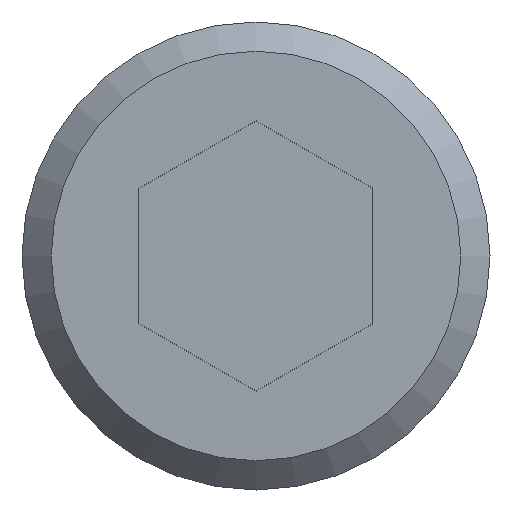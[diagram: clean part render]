
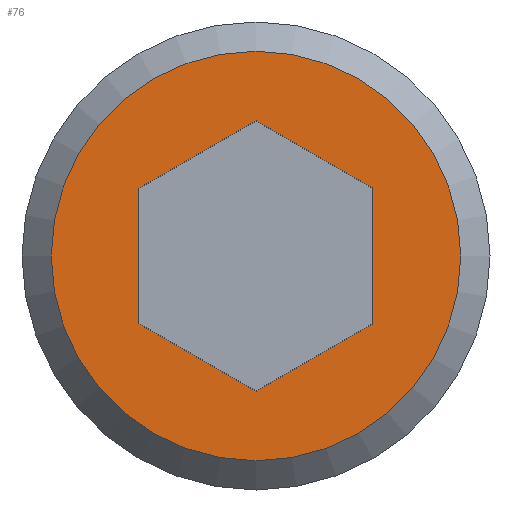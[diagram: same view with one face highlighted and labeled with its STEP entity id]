
A CAD part, front view. The second image highlights one B-rep face of the part: STEP entity #76.
In plain terms, the highlighted planar face has unit normal (0, -1, 0).
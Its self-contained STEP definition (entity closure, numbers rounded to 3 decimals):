
#76 = ADVANCED_FACE( '', ( #94, #95 ), #96, .F. );
#94 = FACE_OUTER_BOUND( '', #132, .T. );
#95 = FACE_BOUND( '', #133, .T. );
#96 = PLANE( '', #134 );
#132 = EDGE_LOOP( '', ( #172 ) );
#133 = EDGE_LOOP( '', ( #173, #174, #175, #176, #177, #178 ) );
#134 = AXIS2_PLACEMENT_3D( '', #179, #180, #181 );
#172 = ORIENTED_EDGE( '', *, *, #264, .F. );
#173 = ORIENTED_EDGE( '', *, *, #265, .T. );
#174 = ORIENTED_EDGE( '', *, *, #266, .T. );
#175 = ORIENTED_EDGE( '', *, *, #267, .T. );
#176 = ORIENTED_EDGE( '', *, *, #268, .T. );
#177 = ORIENTED_EDGE( '', *, *, #269, .T. );
#178 = ORIENTED_EDGE( '', *, *, #270, .T. );
#179 = CARTESIAN_POINT( '', ( 0., 0., 0. ) );
#180 = DIRECTION( '', ( 0., 1., 0. ) );
#181 = DIRECTION( '', ( 0., 0., 1. ) );
#264 = EDGE_CURVE( '', #291, #291, #292, .T. );
#265 = EDGE_CURVE( '', #293, #294, #295, .T. );
#266 = EDGE_CURVE( '', #294, #296, #297, .T. );
#267 = EDGE_CURVE( '', #296, #298, #299, .T. );
#268 = EDGE_CURVE( '', #298, #300, #301, .T. );
#269 = EDGE_CURVE( '', #300, #302, #303, .T. );
#270 = EDGE_CURVE( '', #302, #293, #304, .T. );
#291 = VERTEX_POINT( '', #335 );
#292 = CIRCLE( '', #336, 7. );
#293 = VERTEX_POINT( '', #337 );
#294 = VERTEX_POINT( '', #338 );
#295 = LINE( '', #339, #340 );
#296 = VERTEX_POINT( '', #341 );
#297 = LINE( '', #342, #343 );
#298 = VERTEX_POINT( '', #344 );
#299 = LINE( '', #345, #346 );
#300 = VERTEX_POINT( '', #347 );
#301 = LINE( '', #348, #349 );
#302 = VERTEX_POINT( '', #350 );
#303 = LINE( '', #351, #352 );
#304 = LINE( '', #353, #354 );
#335 = CARTESIAN_POINT( '', ( 0., 0., 7. ) );
#336 = AXIS2_PLACEMENT_3D( '', #398, #399, #400 );
#337 = CARTESIAN_POINT( '', ( -4., 0., -2.309 ) );
#338 = CARTESIAN_POINT( '', ( -4., 0., 2.309 ) );
#339 = CARTESIAN_POINT( '', ( -4., 0., -2.309 ) );
#340 = VECTOR( '', #401, 1000. );
#341 = CARTESIAN_POINT( '', ( 0., 0., 4.619 ) );
#342 = CARTESIAN_POINT( '', ( -4., 0., 2.309 ) );
#343 = VECTOR( '', #402, 1000. );
#344 = CARTESIAN_POINT( '', ( 4., 0., 2.309 ) );
#345 = CARTESIAN_POINT( '', ( 0., 0., 4.619 ) );
#346 = VECTOR( '', #403, 1000. );
#347 = CARTESIAN_POINT( '', ( 4., 0., -2.309 ) );
#348 = CARTESIAN_POINT( '', ( 4., 0., 2.309 ) );
#349 = VECTOR( '', #404, 1000. );
#350 = CARTESIAN_POINT( '', ( 0., 0., -4.619 ) );
#351 = CARTESIAN_POINT( '', ( 4., 0., -2.309 ) );
#352 = VECTOR( '', #405, 1000. );
#353 = CARTESIAN_POINT( '', ( 0., 0., -4.619 ) );
#354 = VECTOR( '', #406, 1000. );
#398 = CARTESIAN_POINT( '', ( 0., 0., 0. ) );
#399 = DIRECTION( '', ( 0., 1., 0. ) );
#400 = DIRECTION( '', ( 0., 0., 1. ) );
#401 = DIRECTION( '', ( 0., 0., 1. ) );
#402 = DIRECTION( '', ( 0.866, 0., 0.5 ) );
#403 = DIRECTION( '', ( 0.866, 0., -0.5 ) );
#404 = DIRECTION( '', ( 0., 0., -1. ) );
#405 = DIRECTION( '', ( -0.866, 0., -0.5 ) );
#406 = DIRECTION( '', ( -0.866, 0., 0.5 ) );
